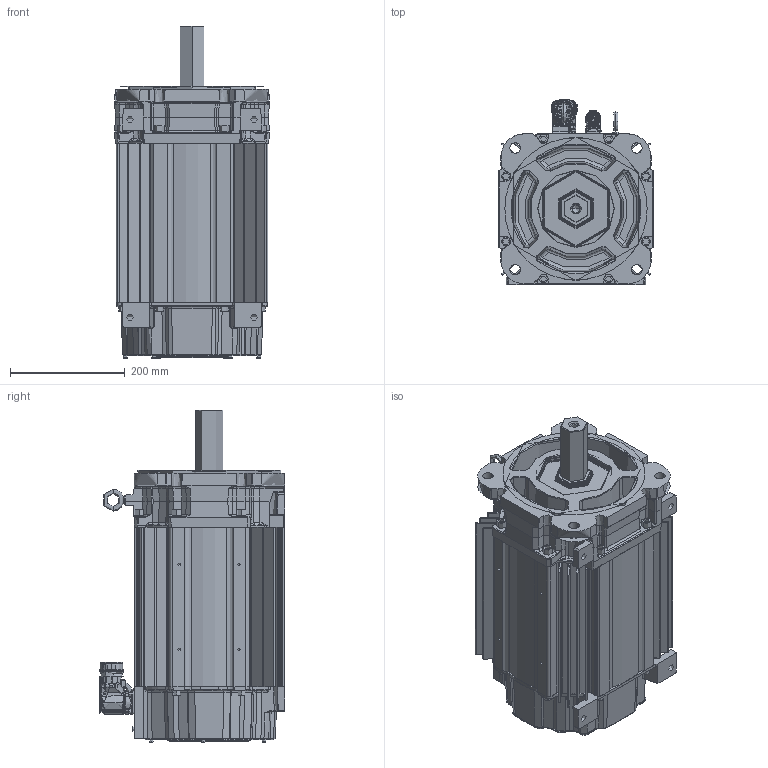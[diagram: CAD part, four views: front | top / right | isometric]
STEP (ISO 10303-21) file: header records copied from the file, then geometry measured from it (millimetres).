
FILE_DESCRIPTION((''),'2;1');
FILE_NAME('10005239751_ASM','2020-01-16T10:28:29',('VThimma'),('Rockwell Automation'),'CREO PARAMETRIC BY PTC INC, 2017380','CREO PARAMETRIC BY PTC INC, 2017380','');
FILE_SCHEMA(('CONFIG_CONTROL_DESIGN','SHAPE_APPEARANCE_LAYERS_GROUPS'));
Products named in the file (25): 10001441946; 10001404634_AF0; 10001404629_AF6; 10001404635_ASM; 10001585735; 10001441999_ASM; 10001439776_KEYLESS; 10001566079_ASM; 10001405269_AF0; 10001405367_ASM; 10001586887; 0002-5004; 10001609981; 10001737030; 10000014325-2; 10000014331; 10000014332-460; 10000014330-460_ASM; 10000172464; PWR40CONN-BRK; PWR40BASE; 10000806125_ASM; 221404-Q12; 10001408124; 10005239751_ASM
Assembly tree (50 placements, depth 4):
  10005239751_ASM
    10001441999_ASM
      10001441946
      10001404635_ASM
        10001404634_AF0
        10001404629_AF6
      10001585735  x8
    10001566079_ASM
      10001439776_KEYLESS
    10001405367_ASM
      10001405269_AF0
    10001586887  x7
    0002-5004  x2
    10001609981
    10001737030
    10000014330-460_ASM
      10000014325-2
      10000014331
      10000014332-460
    10000172464  x4
    10000806125_ASM
      PWR40CONN-BRK
      PWR40BASE
    221404-Q12  x10
    10001408124
Bounding box: 269.49 x 324.05 x 578.83 mm (x, y, z)
Topology: 0 solids, 61 shells, 7045 faces, 18322 edges, 11391 vertices
Faces by surface type: cylinder 2227, plane 1650, bspline 1505, torus 877, cone 580, sphere 163, extrusion 42, revolution 1
Entity records: 356972 total; most frequent: CARTESIAN_POINT 136552, ORIENTED_EDGE 30157, DIRECTION 25482, PRESENTATION_STYLE_ASSIGNMENT 20938, STYLED_ITEM 20938, CURVE_STYLE 15188, EDGE_CURVE 15146, AXIS2_PLACEMENT_3D 10340
